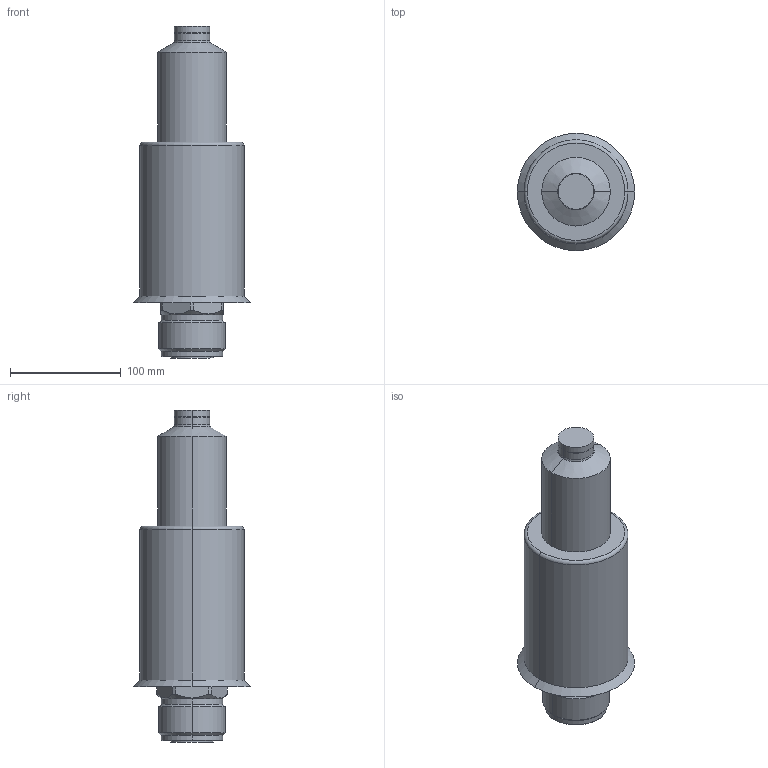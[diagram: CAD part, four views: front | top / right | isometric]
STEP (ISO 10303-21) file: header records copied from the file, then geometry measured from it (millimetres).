
FILE_DESCRIPTION (( 'STEP AP214' ), '1' );
FILE_NAME ('T24_CLOSED_250_BAND_RD.STEP', '2016-09-09T13:45:02', ( '' ), ( '' ), 'SwSTEP 2.0', 'SolidWorks 2015', '' );
FILE_SCHEMA (( 'AUTOMOTIVE_DESIGN' ));
Length unit declared in the file: millimetre
Products named in the file (1): T24_CLOSED_250_BAND_RD
Bounding box: 106 x 106 x 300 mm (x, y, z)
Volume: 1991104.7 mm3; surface area: 145508.1 mm2
Topology: 2 solids, 2 shells, 404 faces, 1016 edges, 630 vertices
Faces by surface type: plane 158, cylinder 156, torus 62, cone 20, sphere 4, bspline 4
Entity records: 17705 total; most frequent: CARTESIAN_POINT 3405, DIRECTION 2150, ORIENTED_EDGE 2024, EDGE_CURVE 1012, AXIS2_PLACEMENT_3D 833, VERTEX_POINT 630, LINE 484, VECTOR 484
